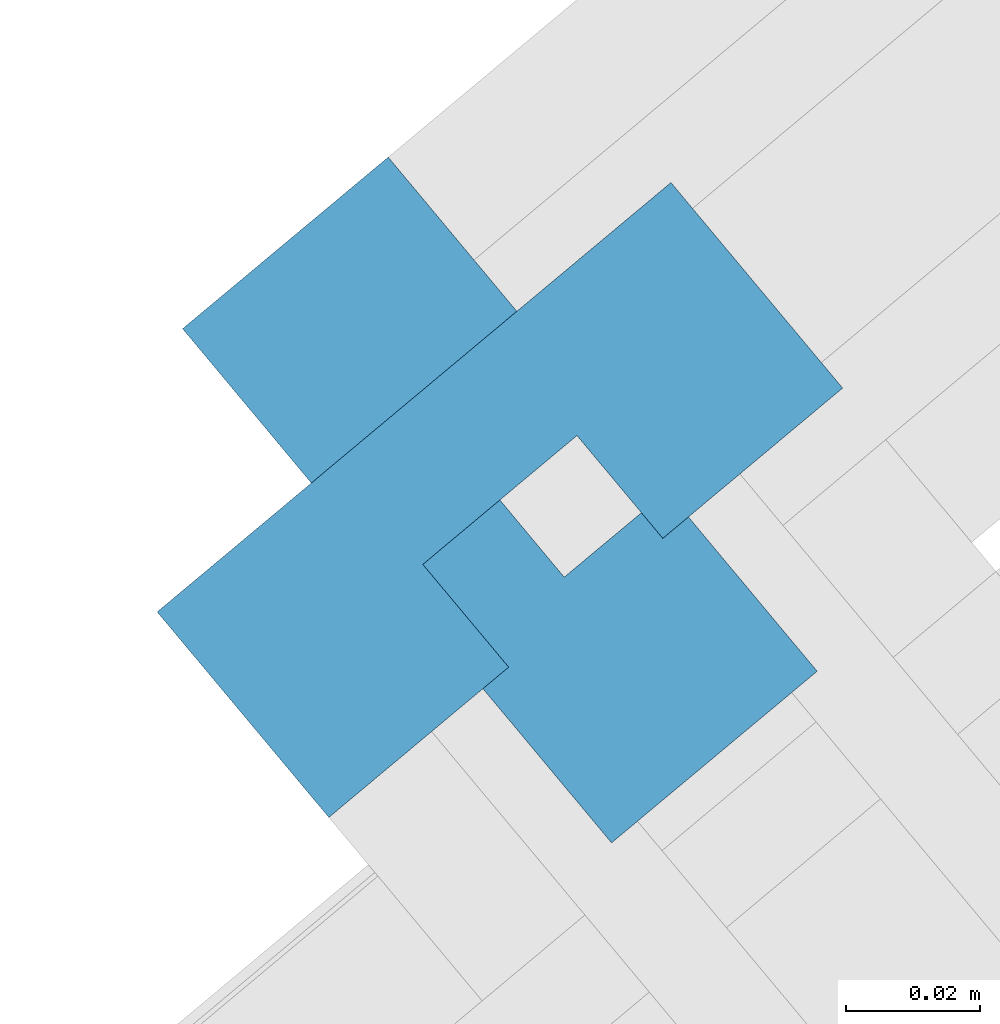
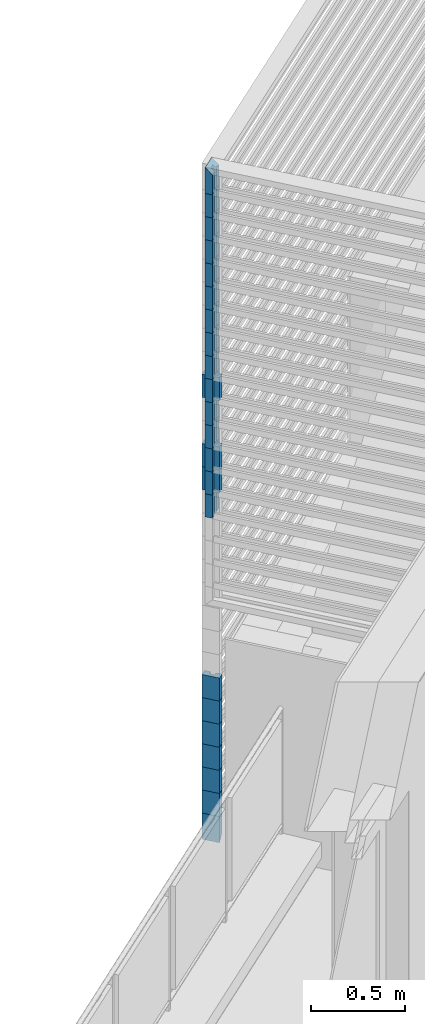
# One storey, part 38 of 47: 25 building element parts, 2 elements without a shape of their own.
"""IFC4 building model written with IfcOpenShell, lengths in metres."""

from ifc_helpers import new_model, entity, si_unit, converted_unit, derived_unit, direction, frame, origin_with_axes, place, context, subcontext, project, spatial, polygons, material, type_object, element, aggregate, save


model = new_model("IFC4")

# Units and contexts
model_context = context("Model", 3, precision=1e-05, world=origin_with_axes(), true_north=direction((0.0, 1.0)))
body_context = subcontext(model_context, "Body", "Model", "MODEL_VIEW")
ifc_project = project(units=[si_unit("LENGTHUNIT", "METRE"), si_unit("AREAUNIT", "SQUARE_METRE"), si_unit("VOLUMEUNIT", "CUBIC_METRE"), converted_unit("PLANEANGLEUNIT", "DEGREE", entity("IfcPlaneAngleMeasure", 0.0174532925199), si_unit("PLANEANGLEUNIT", "RADIAN"), dimensions=[0, 0, 0, 0, 0, 0, 0]), converted_unit("TIMEUNIT", "Year", entity("IfcTimeMeasure", 31556926.0), si_unit("TIMEUNIT", "SECOND"), dimensions=[0, 0, 1, 0, 0, 0, 0]), si_unit("MASSUNIT", "GRAM", prefix="KILO"), si_unit("THERMODYNAMICTEMPERATUREUNIT", "DEGREE_CELSIUS"), si_unit("LUMINOUSINTENSITYUNIT", "LUMEN"), si_unit("ENERGYUNIT", "JOULE", prefix="MEGA"), derived_unit("THERMALCONDUCTANCEUNIT", [(si_unit("POWERUNIT", "WATT"), 1), (si_unit("LENGTHUNIT", "METRE"), -1), (si_unit("THERMODYNAMICTEMPERATUREUNIT", "KELVIN"), -1)]), derived_unit("SPECIFICHEATCAPACITYUNIT", [(si_unit("ENERGYUNIT", "JOULE"), 1), (si_unit("MASSUNIT", "GRAM", prefix="KILO"), -1), (si_unit("THERMODYNAMICTEMPERATUREUNIT", "KELVIN"), -1)]), derived_unit("MASSDENSITYUNIT", [(si_unit("MASSUNIT", "GRAM", prefix="KILO"), 1), (si_unit("VOLUMEUNIT", "CUBIC_METRE"), -1)])], contexts=[model_context])

# Site, building, storey
site_placement = place(None, frame((-0.00153261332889, -0.00661245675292, 0.0), z_axis=(0.0, 0.0, 1.0), x_axis=(1.0, 0.0, 0.0)))
site = spatial("IfcSite", under=ifc_project, at=site_placement, Name="Site", CompositionType="ELEMENT")
building_placement = place(site_placement, origin_with_axes())
building = spatial("IfcBuilding", under=site, at=building_placement, Name="Building", CompositionType="ELEMENT")
storey_placement = place(building_placement, frame((0.0, 0.0, 8.66), z_axis=(0.0, 0.0, 1.0), x_axis=(1.0, 0.0, 0.0)))
storey = spatial("IfcBuildingStorey", under=building, at=storey_placement, Name="DG2", CompositionType="ELEMENT", Elevation=8.66)

# Curtain wall, building element parts
curtain_wall_type = type_object("IfcCurtainWallType", Name="Fassadentyp", PredefinedType="NOTDEFINED")
curtain_wall_1_placement = place(storey_placement, frame((-3.99984616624, 22.0071436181, 1.87), z_axis=(0.0, 0.0, 1.0), x_axis=(1.0, 0.0, 0.0)))
curtain_wall_1 = element("IfcCurtainWall", 1, at=curtain_wall_1_placement, inside=storey, type_object=curtain_wall_type, Name="Fassade-001", PredefinedType="NOTDEFINED")
ifc_material = material(Name="Blech")
building_element_part_1_placement = place(curtain_wall_1_placement, origin_with_axes())
building_element_part_1 = element("IfcBuildingElementPart", 2, at=building_element_part_1_placement, material=ifc_material, Name="Blech", PredefinedType="NOTDEFINED", context=body_context, shape_type="Tessellation", body=[
    polygons([(-0.479092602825, 0.596746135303, 0.700000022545), (-0.466268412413, 0.581398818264, 0.700000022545), (-0.439410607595, 0.603841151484, 0.700000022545), (-0.465058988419, 0.634535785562, 0.700000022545), (-0.541795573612, 0.570414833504, 0.700000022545), (-0.516147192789, 0.539720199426, 0.700000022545), (-0.489289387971, 0.562162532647, 0.700000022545), (-0.502113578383, 0.577509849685, 0.700000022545), (-0.479092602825, 0.596746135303, 0.550000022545), (-0.466268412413, 0.581398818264, 0.550000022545), (-0.439410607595, 0.603841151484, 0.550000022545), (-0.465058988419, 0.634535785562, 0.550000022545), (-0.541795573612, 0.570414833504, 0.550000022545), (-0.516147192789, 0.539720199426, 0.550000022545), (-0.489289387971, 0.562162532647, 0.550000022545), (-0.502113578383, 0.577509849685, 0.550000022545)], [[[1, 2, 3, 4, 5, 6, 7, 8]], [[1, 9, 10, 2]], [[10, 11, 3, 2]], [[11, 12, 4, 3]], [[12, 13, 5, 4]], [[13, 14, 6, 5]], [[7, 6, 14, 15]], [[15, 16, 8, 7]], [[8, 16, 9, 1]], [[9, 16, 15, 14, 13, 12, 11, 10]]], closed=True),
])
building_element_part_2_placement = place(curtain_wall_1_placement, origin_with_axes())
building_element_part_2 = element("IfcBuildingElementPart", 3, at=building_element_part_2_placement, material=ifc_material, Name="Blech", PredefinedType="NOTDEFINED", context=body_context, shape_type="Tessellation", body=[
    polygons([(-0.479092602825, 0.596746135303, 0.850000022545), (-0.466268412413, 0.581398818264, 0.850000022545), (-0.439410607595, 0.603841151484, 0.850000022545), (-0.465058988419, 0.634535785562, 0.850000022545), (-0.541795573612, 0.570414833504, 0.850000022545), (-0.516147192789, 0.539720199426, 0.850000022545), (-0.489289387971, 0.562162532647, 0.850000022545), (-0.502113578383, 0.577509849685, 0.850000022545), (-0.479092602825, 0.596746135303, 0.700000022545), (-0.466268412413, 0.581398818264, 0.700000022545), (-0.439410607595, 0.603841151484, 0.700000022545), (-0.465058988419, 0.634535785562, 0.700000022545), (-0.541795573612, 0.570414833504, 0.700000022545), (-0.516147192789, 0.539720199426, 0.700000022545), (-0.489289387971, 0.562162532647, 0.700000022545), (-0.502113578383, 0.577509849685, 0.700000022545)], [[[1, 2, 3, 4, 5, 6, 7, 8]], [[1, 9, 10, 2]], [[10, 11, 3, 2]], [[11, 12, 4, 3]], [[12, 13, 5, 4]], [[13, 14, 6, 5]], [[7, 6, 14, 15]], [[15, 16, 8, 7]], [[8, 16, 9, 1]], [[9, 16, 15, 14, 13, 12, 11, 10]]], closed=True),
])
building_element_part_3_placement = place(curtain_wall_1_placement, origin_with_axes())
building_element_part_3 = element("IfcBuildingElementPart", 4, at=building_element_part_3_placement, material=ifc_material, Name="Blech", PredefinedType="NOTDEFINED", context=body_context, shape_type="Tessellation", body=[
    polygons([(-0.479092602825, 0.596746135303, 1.00000002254), (-0.466268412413, 0.581398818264, 1.00000002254), (-0.439410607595, 0.603841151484, 1.00000002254), (-0.465058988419, 0.634535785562, 1.00000002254), (-0.541795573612, 0.570414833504, 1.00000002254), (-0.516147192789, 0.539720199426, 1.00000002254), (-0.489289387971, 0.562162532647, 1.00000002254), (-0.502113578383, 0.577509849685, 1.00000002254), (-0.479092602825, 0.596746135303, 0.850000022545), (-0.466268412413, 0.581398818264, 0.850000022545), (-0.439410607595, 0.603841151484, 0.850000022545), (-0.465058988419, 0.634535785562, 0.850000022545), (-0.541795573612, 0.570414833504, 0.850000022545), (-0.516147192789, 0.539720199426, 0.850000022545), (-0.489289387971, 0.562162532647, 0.850000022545), (-0.502113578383, 0.577509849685, 0.850000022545)], [[[1, 2, 3, 4, 5, 6, 7, 8]], [[1, 9, 10, 2]], [[10, 11, 3, 2]], [[11, 12, 4, 3]], [[12, 13, 5, 4]], [[13, 14, 6, 5]], [[7, 6, 14, 15]], [[15, 16, 8, 7]], [[8, 16, 9, 1]], [[9, 16, 15, 14, 13, 12, 11, 10]]], closed=True),
])
building_element_part_4_placement = place(curtain_wall_1_placement, origin_with_axes())
building_element_part_4 = element("IfcBuildingElementPart", 5, at=building_element_part_4_placement, material=ifc_material, Name="Blech", PredefinedType="NOTDEFINED", context=body_context, shape_type="Tessellation", body=[
    polygons([(-0.479092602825, 0.596746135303, 1.15000002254), (-0.466268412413, 0.581398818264, 1.15000002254), (-0.439410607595, 0.603841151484, 1.15000002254), (-0.465058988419, 0.634535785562, 1.15000002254), (-0.541795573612, 0.570414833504, 1.15000002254), (-0.516147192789, 0.539720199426, 1.15000002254), (-0.489289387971, 0.562162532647, 1.15000002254), (-0.502113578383, 0.577509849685, 1.15000002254), (-0.479092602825, 0.596746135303, 1.00000002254), (-0.466268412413, 0.581398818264, 1.00000002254), (-0.439410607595, 0.603841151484, 1.00000002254), (-0.465058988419, 0.634535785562, 1.00000002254), (-0.541795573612, 0.570414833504, 1.00000002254), (-0.516147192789, 0.539720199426, 1.00000002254), (-0.489289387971, 0.562162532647, 1.00000002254), (-0.502113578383, 0.577509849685, 1.00000002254)], [[[1, 2, 3, 4, 5, 6, 7, 8]], [[1, 9, 10, 2]], [[10, 11, 3, 2]], [[11, 12, 4, 3]], [[12, 13, 5, 4]], [[13, 14, 6, 5]], [[7, 6, 14, 15]], [[15, 16, 8, 7]], [[8, 16, 9, 1]], [[9, 16, 15, 14, 13, 12, 11, 10]]], closed=True),
])
building_element_part_5_placement = place(curtain_wall_1_placement, origin_with_axes())
building_element_part_5 = element("IfcBuildingElementPart", 6, at=building_element_part_5_placement, material=ifc_material, Name="Blech", PredefinedType="NOTDEFINED", context=body_context, shape_type="Tessellation", body=[
    polygons([(-0.479092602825, 0.596746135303, 1.30000002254), (-0.466268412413, 0.581398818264, 1.30000002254), (-0.439410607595, 0.603841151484, 1.30000002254), (-0.465058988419, 0.634535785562, 1.30000002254), (-0.541795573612, 0.570414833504, 1.30000002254), (-0.516147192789, 0.539720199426, 1.30000002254), (-0.489289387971, 0.562162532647, 1.30000002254), (-0.502113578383, 0.577509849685, 1.30000002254), (-0.479092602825, 0.596746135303, 1.15000002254), (-0.466268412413, 0.581398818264, 1.15000002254), (-0.439410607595, 0.603841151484, 1.15000002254), (-0.465058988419, 0.634535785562, 1.15000002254), (-0.541795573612, 0.570414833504, 1.15000002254), (-0.516147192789, 0.539720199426, 1.15000002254), (-0.489289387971, 0.562162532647, 1.15000002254), (-0.502113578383, 0.577509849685, 1.15000002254)], [[[1, 2, 3, 4, 5, 6, 7, 8]], [[1, 9, 10, 2]], [[10, 11, 3, 2]], [[11, 12, 4, 3]], [[12, 13, 5, 4]], [[13, 14, 6, 5]], [[7, 6, 14, 15]], [[15, 16, 8, 7]], [[8, 16, 9, 1]], [[9, 16, 15, 14, 13, 12, 11, 10]]], closed=True),
])
building_element_part_6_placement = place(curtain_wall_1_placement, origin_with_axes())
building_element_part_6 = element("IfcBuildingElementPart", 7, at=building_element_part_6_placement, material=ifc_material, Name="Blech", PredefinedType="NOTDEFINED", context=body_context, shape_type="Tessellation", body=[
    polygons([(-0.479092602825, 0.596746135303, 1.45000002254), (-0.466268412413, 0.581398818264, 1.45000002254), (-0.439410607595, 0.603841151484, 1.45000002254), (-0.465058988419, 0.634535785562, 1.45000002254), (-0.541795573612, 0.570414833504, 1.45000002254), (-0.516147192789, 0.539720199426, 1.45000002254), (-0.489289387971, 0.562162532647, 1.45000002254), (-0.502113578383, 0.577509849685, 1.45000002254), (-0.479092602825, 0.596746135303, 1.30000002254), (-0.466268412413, 0.581398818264, 1.30000002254), (-0.439410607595, 0.603841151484, 1.30000002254), (-0.465058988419, 0.634535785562, 1.30000002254), (-0.541795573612, 0.570414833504, 1.30000002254), (-0.516147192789, 0.539720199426, 1.30000002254), (-0.489289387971, 0.562162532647, 1.30000002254), (-0.502113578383, 0.577509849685, 1.30000002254)], [[[1, 2, 3, 4, 5, 6, 7, 8]], [[1, 9, 10, 2]], [[10, 11, 3, 2]], [[11, 12, 4, 3]], [[12, 13, 5, 4]], [[13, 14, 6, 5]], [[7, 6, 14, 15]], [[15, 16, 8, 7]], [[8, 16, 9, 1]], [[9, 16, 15, 14, 13, 12, 11, 10]]], closed=True),
])
building_element_part_7_placement = place(curtain_wall_1_placement, origin_with_axes())
building_element_part_7 = element("IfcBuildingElementPart", 8, at=building_element_part_7_placement, material=ifc_material, Name="Blech", PredefinedType="NOTDEFINED", context=body_context, shape_type="Tessellation", body=[
    polygons([(-0.479092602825, 0.596746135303, 1.60000002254), (-0.466268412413, 0.581398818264, 1.60000002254), (-0.439410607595, 0.603841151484, 1.60000002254), (-0.465058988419, 0.634535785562, 1.60000002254), (-0.541795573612, 0.570414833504, 1.60000002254), (-0.516147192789, 0.539720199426, 1.60000002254), (-0.489289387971, 0.562162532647, 1.60000002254), (-0.502113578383, 0.577509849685, 1.60000002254), (-0.479092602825, 0.596746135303, 1.45000002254), (-0.466268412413, 0.581398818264, 1.45000002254), (-0.439410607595, 0.603841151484, 1.45000002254), (-0.465058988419, 0.634535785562, 1.45000002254), (-0.541795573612, 0.570414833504, 1.45000002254), (-0.516147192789, 0.539720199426, 1.45000002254), (-0.489289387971, 0.562162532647, 1.45000002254), (-0.502113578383, 0.577509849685, 1.45000002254)], [[[1, 2, 3, 4, 5, 6, 7, 8]], [[1, 9, 10, 2]], [[10, 11, 3, 2]], [[11, 12, 4, 3]], [[12, 13, 5, 4]], [[13, 14, 6, 5]], [[7, 6, 14, 15]], [[15, 16, 8, 7]], [[8, 16, 9, 1]], [[9, 16, 15, 14, 13, 12, 11, 10]]], closed=True),
])
building_element_part_8_placement = place(curtain_wall_1_placement, origin_with_axes())
building_element_part_8 = element("IfcBuildingElementPart", 9, at=building_element_part_8_placement, material=ifc_material, Name="Blech", PredefinedType="NOTDEFINED", context=body_context, shape_type="Tessellation", body=[
    polygons([(-0.479092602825, 0.596746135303, 1.75000002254), (-0.466268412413, 0.581398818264, 1.75000002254), (-0.439410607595, 0.603841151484, 1.75000002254), (-0.465058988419, 0.634535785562, 1.75000002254), (-0.541795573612, 0.570414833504, 1.75000002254), (-0.516147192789, 0.539720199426, 1.75000002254), (-0.489289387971, 0.562162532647, 1.75000002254), (-0.502113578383, 0.577509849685, 1.75000002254), (-0.479092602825, 0.596746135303, 1.60000002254), (-0.466268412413, 0.581398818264, 1.60000002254), (-0.439410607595, 0.603841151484, 1.60000002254), (-0.465058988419, 0.634535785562, 1.60000002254), (-0.541795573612, 0.570414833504, 1.60000002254), (-0.516147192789, 0.539720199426, 1.60000002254), (-0.489289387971, 0.562162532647, 1.60000002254), (-0.502113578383, 0.577509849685, 1.60000002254)], [[[1, 2, 3, 4, 5, 6, 7, 8]], [[1, 9, 10, 2]], [[10, 11, 3, 2]], [[11, 12, 4, 3]], [[12, 13, 5, 4]], [[13, 14, 6, 5]], [[7, 6, 14, 15]], [[15, 16, 8, 7]], [[8, 16, 9, 1]], [[9, 16, 15, 14, 13, 12, 11, 10]]], closed=True),
])
building_element_part_9_placement = place(curtain_wall_1_placement, origin_with_axes())
building_element_part_9 = element("IfcBuildingElementPart", 10, at=building_element_part_9_placement, material=ifc_material, Name="Blech", PredefinedType="NOTDEFINED", context=body_context, shape_type="Tessellation", body=[
    polygons([(-0.479092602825, 0.596746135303, 1.90000002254), (-0.466268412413, 0.581398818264, 1.90000002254), (-0.439410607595, 0.603841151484, 1.90000002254), (-0.465058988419, 0.634535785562, 1.90000002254), (-0.541795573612, 0.570414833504, 1.90000002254), (-0.516147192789, 0.539720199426, 1.90000002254), (-0.489289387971, 0.562162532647, 1.90000002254), (-0.502113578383, 0.577509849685, 1.90000002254), (-0.479092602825, 0.596746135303, 1.75000002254), (-0.466268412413, 0.581398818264, 1.75000002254), (-0.439410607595, 0.603841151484, 1.75000002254), (-0.465058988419, 0.634535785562, 1.75000002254), (-0.541795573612, 0.570414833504, 1.75000002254), (-0.516147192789, 0.539720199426, 1.75000002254), (-0.489289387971, 0.562162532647, 1.75000002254), (-0.502113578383, 0.577509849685, 1.75000002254)], [[[1, 2, 3, 4, 5, 6, 7, 8]], [[1, 9, 10, 2]], [[10, 11, 3, 2]], [[11, 12, 4, 3]], [[12, 13, 5, 4]], [[13, 14, 6, 5]], [[7, 6, 14, 15]], [[15, 16, 8, 7]], [[8, 16, 9, 1]], [[9, 16, 15, 14, 13, 12, 11, 10]]], closed=True),
])
building_element_part_10_placement = place(curtain_wall_1_placement, origin_with_axes())
building_element_part_10 = element("IfcBuildingElementPart", 11, at=building_element_part_10_placement, material=ifc_material, Name="Blech", PredefinedType="NOTDEFINED", context=body_context, shape_type="Tessellation", body=[
    polygons([(-0.479092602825, 0.596746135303, 2.05000002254), (-0.466268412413, 0.581398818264, 2.05000002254), (-0.439410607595, 0.603841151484, 2.05000002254), (-0.465058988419, 0.634535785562, 2.05000002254), (-0.541795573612, 0.570414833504, 2.05000002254), (-0.516147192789, 0.539720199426, 2.05000002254), (-0.489289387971, 0.562162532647, 2.05000002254), (-0.502113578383, 0.577509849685, 2.05000002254), (-0.479092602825, 0.596746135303, 1.90000002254), (-0.466268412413, 0.581398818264, 1.90000002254), (-0.439410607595, 0.603841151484, 1.90000002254), (-0.465058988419, 0.634535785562, 1.90000002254), (-0.541795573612, 0.570414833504, 1.90000002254), (-0.516147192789, 0.539720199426, 1.90000002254), (-0.489289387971, 0.562162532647, 1.90000002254), (-0.502113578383, 0.577509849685, 1.90000002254)], [[[1, 2, 3, 4, 5, 6, 7, 8]], [[1, 9, 10, 2]], [[10, 11, 3, 2]], [[11, 12, 4, 3]], [[12, 13, 5, 4]], [[13, 14, 6, 5]], [[7, 6, 14, 15]], [[15, 16, 8, 7]], [[8, 16, 9, 1]], [[9, 16, 15, 14, 13, 12, 11, 10]]], closed=True),
])
building_element_part_11_placement = place(curtain_wall_1_placement, origin_with_axes())
building_element_part_11 = element("IfcBuildingElementPart", 12, at=building_element_part_11_placement, material=ifc_material, Name="Blech", PredefinedType="NOTDEFINED", context=body_context, shape_type="Tessellation", body=[
    polygons([(-0.479092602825, 0.596746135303, 2.20000002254), (-0.466268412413, 0.581398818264, 2.20000002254), (-0.439410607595, 0.603841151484, 2.20000002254), (-0.465058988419, 0.634535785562, 2.20000002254), (-0.541795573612, 0.570414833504, 2.20000002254), (-0.516147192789, 0.539720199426, 2.20000002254), (-0.489289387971, 0.562162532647, 2.20000002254), (-0.502113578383, 0.577509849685, 2.20000002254), (-0.479092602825, 0.596746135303, 2.05000002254), (-0.466268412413, 0.581398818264, 2.05000002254), (-0.439410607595, 0.603841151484, 2.05000002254), (-0.465058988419, 0.634535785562, 2.05000002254), (-0.541795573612, 0.570414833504, 2.05000002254), (-0.516147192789, 0.539720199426, 2.05000002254), (-0.489289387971, 0.562162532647, 2.05000002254), (-0.502113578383, 0.577509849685, 2.05000002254)], [[[1, 2, 3, 4, 5, 6, 7, 8]], [[1, 9, 10, 2]], [[10, 11, 3, 2]], [[11, 12, 4, 3]], [[12, 13, 5, 4]], [[13, 14, 6, 5]], [[7, 6, 14, 15]], [[15, 16, 8, 7]], [[8, 16, 9, 1]], [[9, 16, 15, 14, 13, 12, 11, 10]]], closed=True),
])
building_element_part_12_placement = place(curtain_wall_1_placement, origin_with_axes())
building_element_part_12 = element("IfcBuildingElementPart", 13, at=building_element_part_12_placement, material=ifc_material, Name="Blech", PredefinedType="NOTDEFINED", context=body_context, shape_type="Tessellation", body=[
    polygons([(-0.479092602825, 0.596746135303, 2.35000002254), (-0.466268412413, 0.581398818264, 2.35000002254), (-0.439410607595, 0.603841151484, 2.35000002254), (-0.465058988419, 0.634535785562, 2.35000002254), (-0.541795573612, 0.570414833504, 2.35000002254), (-0.516147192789, 0.539720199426, 2.35000002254), (-0.489289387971, 0.562162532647, 2.35000002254), (-0.502113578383, 0.577509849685, 2.35000002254), (-0.479092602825, 0.596746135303, 2.20000002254), (-0.466268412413, 0.581398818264, 2.20000002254), (-0.439410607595, 0.603841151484, 2.20000002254), (-0.465058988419, 0.634535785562, 2.20000002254), (-0.541795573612, 0.570414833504, 2.20000002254), (-0.516147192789, 0.539720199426, 2.20000002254), (-0.489289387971, 0.562162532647, 2.20000002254), (-0.502113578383, 0.577509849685, 2.20000002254)], [[[1, 2, 3, 4, 5, 6, 7, 8]], [[1, 9, 10, 2]], [[10, 11, 3, 2]], [[11, 12, 4, 3]], [[12, 13, 5, 4]], [[13, 14, 6, 5]], [[7, 6, 14, 15]], [[15, 16, 8, 7]], [[8, 16, 9, 1]], [[9, 16, 15, 14, 13, 12, 11, 10]]], closed=True),
])
building_element_part_13_placement = place(curtain_wall_1_placement, origin_with_axes())
building_element_part_13 = element("IfcBuildingElementPart", 14, at=building_element_part_13_placement, material=ifc_material, Name="Blech", PredefinedType="NOTDEFINED", context=body_context, shape_type="Tessellation", body=[
    polygons([(-0.479092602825, 0.596746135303, 2.50000002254), (-0.466268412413, 0.581398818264, 2.50000002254), (-0.439410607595, 0.603841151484, 2.50000002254), (-0.465058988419, 0.634535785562, 2.50000002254), (-0.541795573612, 0.570414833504, 2.50000002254), (-0.516147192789, 0.539720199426, 2.50000002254), (-0.489289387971, 0.562162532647, 2.50000002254), (-0.502113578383, 0.577509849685, 2.50000002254), (-0.479092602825, 0.596746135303, 2.35000002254), (-0.466268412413, 0.581398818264, 2.35000002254), (-0.439410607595, 0.603841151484, 2.35000002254), (-0.465058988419, 0.634535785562, 2.35000002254), (-0.541795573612, 0.570414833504, 2.35000002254), (-0.516147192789, 0.539720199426, 2.35000002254), (-0.489289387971, 0.562162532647, 2.35000002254), (-0.502113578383, 0.577509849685, 2.35000002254)], [[[1, 2, 3, 4, 5, 6, 7, 8]], [[1, 9, 10, 2]], [[10, 11, 3, 2]], [[11, 12, 4, 3]], [[12, 13, 5, 4]], [[13, 14, 6, 5]], [[7, 6, 14, 15]], [[15, 16, 8, 7]], [[8, 16, 9, 1]], [[9, 16, 15, 14, 13, 12, 11, 10]]], closed=True),
])
building_element_part_14_placement = place(curtain_wall_1_placement, origin_with_axes())
building_element_part_14 = element("IfcBuildingElementPart", 15, at=building_element_part_14_placement, material=ifc_material, Name="Blech", PredefinedType="NOTDEFINED", context=body_context, shape_type="Tessellation", body=[
    polygons([(-0.479092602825, 0.596746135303, 2.65000002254), (-0.466268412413, 0.581398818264, 2.65000002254), (-0.439410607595, 0.603841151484, 2.65000002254), (-0.465058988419, 0.634535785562, 2.65000002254), (-0.541795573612, 0.570414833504, 2.65000002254), (-0.516147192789, 0.539720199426, 2.65000002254), (-0.489289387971, 0.562162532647, 2.65000002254), (-0.502113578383, 0.577509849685, 2.65000002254), (-0.479092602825, 0.596746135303, 2.50000002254), (-0.466268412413, 0.581398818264, 2.50000002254), (-0.439410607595, 0.603841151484, 2.50000002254), (-0.465058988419, 0.634535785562, 2.50000002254), (-0.541795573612, 0.570414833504, 2.50000002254), (-0.516147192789, 0.539720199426, 2.50000002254), (-0.489289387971, 0.562162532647, 2.50000002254), (-0.502113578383, 0.577509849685, 2.50000002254)], [[[1, 2, 3, 4, 5, 6, 7, 8]], [[1, 9, 10, 2]], [[10, 11, 3, 2]], [[11, 12, 4, 3]], [[12, 13, 5, 4]], [[13, 14, 6, 5]], [[7, 6, 14, 15]], [[15, 16, 8, 7]], [[8, 16, 9, 1]], [[9, 16, 15, 14, 13, 12, 11, 10]]], closed=True),
])
building_element_part_15_placement = place(curtain_wall_1_placement, origin_with_axes())
building_element_part_15 = element("IfcBuildingElementPart", 16, at=building_element_part_15_placement, material=ifc_material, Name="Blech", PredefinedType="NOTDEFINED", context=body_context, shape_type="Tessellation", body=[
    polygons([(-0.479092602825, 0.596746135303, 2.80000002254), (-0.466268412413, 0.581398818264, 2.78000002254), (-0.439410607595, 0.603841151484, 2.78000002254), (-0.465058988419, 0.634535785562, 2.82000002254), (-0.541795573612, 0.570414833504, 2.82000002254), (-0.516147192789, 0.539720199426, 2.78000002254), (-0.489289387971, 0.562162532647, 2.78000002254), (-0.502113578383, 0.577509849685, 2.80000002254), (-0.479092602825, 0.596746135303, 2.65000002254), (-0.466268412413, 0.581398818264, 2.65000002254), (-0.439410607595, 0.603841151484, 2.65000002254), (-0.465058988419, 0.634535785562, 2.65000002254), (-0.541795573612, 0.570414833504, 2.65000002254), (-0.516147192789, 0.539720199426, 2.65000002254), (-0.489289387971, 0.562162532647, 2.65000002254), (-0.502113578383, 0.577509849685, 2.65000002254)], [[[1, 2, 3, 4, 5, 6, 7, 8]], [[1, 9, 10, 2]], [[10, 11, 3, 2]], [[11, 12, 4, 3]], [[12, 13, 5, 4]], [[13, 14, 6, 5]], [[7, 6, 14, 15]], [[15, 16, 8, 7]], [[8, 16, 9, 1]], [[9, 16, 15, 14, 13, 12, 11, 10]]], closed=True),
])
aggregate(curtain_wall_1, [building_element_part_1, building_element_part_2, building_element_part_3, building_element_part_4, building_element_part_5, building_element_part_6, building_element_part_7, building_element_part_8, building_element_part_9, building_element_part_10, building_element_part_11, building_element_part_12, building_element_part_13, building_element_part_14, building_element_part_15])

curtain_wall_2_placement = place(storey_placement, frame((-2.95253507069, 23.8775371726, 0.32), z_axis=(0.0, 0.0, 1.0), x_axis=(1.0, 0.0, 0.0)))
curtain_wall_2 = element("IfcCurtainWall", 17, at=curtain_wall_2_placement, inside=storey, type_object=curtain_wall_type, Name="Fassade-001", PredefinedType="NOTDEFINED")
building_element_part_16_placement = place(curtain_wall_2_placement, origin_with_axes())
building_element_part_16 = element("IfcBuildingElementPart", 18, at=building_element_part_16_placement, material=ifc_material, Name="Blech", PredefinedType="NOTDEFINED", context=body_context, shape_type="Tessellation", body=[
    polygons([(-1.52830488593, -1.29478343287, 0.15), (-1.54752517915, -1.27174910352, 0.15), (-1.53216895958, -1.25893557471, 0.15), (-1.554592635, -1.23206219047, 0.15), (-1.58530507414, -1.25768924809, 0.15), (-1.52123743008, -1.33447034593, 0.15), (-1.49052499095, -1.3088432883, 0.15), (-1.51294866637, -1.28196990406, 0.15), (-1.52830488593, -1.29478343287, 0.0), (-1.54752517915, -1.27174910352, 0.0), (-1.53216895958, -1.25893557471, 0.02), (-1.554592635, -1.23206219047, 0.02), (-1.58530507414, -1.25768924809, -0.02), (-1.52123743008, -1.33447034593, -0.02), (-1.49052499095, -1.3088432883, 0.02), (-1.51294866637, -1.28196990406, 0.02)], [[[1, 2, 3, 4, 5, 6, 7, 8]], [[2, 1, 9, 10]], [[11, 3, 2, 10]], [[3, 11, 12, 4]], [[5, 4, 12, 13]], [[6, 5, 13, 14]], [[7, 6, 14, 15]], [[16, 8, 7, 15]], [[1, 8, 16, 9]], [[9, 16, 15, 14, 13, 12, 11, 10]]], closed=True),
])
building_element_part_17_placement = place(curtain_wall_2_placement, origin_with_axes())
building_element_part_17 = element("IfcBuildingElementPart", 19, at=building_element_part_17_placement, material=ifc_material, Name="Blech", PredefinedType="NOTDEFINED", context=body_context, shape_type="Tessellation", body=[
    polygons([(-1.52830488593, -1.29478343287, 0.3), (-1.54752517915, -1.27174910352, 0.3), (-1.53216895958, -1.25893557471, 0.3), (-1.554592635, -1.23206219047, 0.3), (-1.58530507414, -1.25768924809, 0.3), (-1.52123743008, -1.33447034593, 0.3), (-1.49052499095, -1.3088432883, 0.3), (-1.51294866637, -1.28196990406, 0.3), (-1.52830488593, -1.29478343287, 0.15), (-1.54752517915, -1.27174910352, 0.15), (-1.53216895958, -1.25893557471, 0.15), (-1.554592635, -1.23206219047, 0.15), (-1.58530507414, -1.25768924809, 0.15), (-1.52123743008, -1.33447034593, 0.15), (-1.49052499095, -1.3088432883, 0.15), (-1.51294866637, -1.28196990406, 0.15)], [[[1, 2, 3, 4, 5, 6, 7, 8]], [[2, 1, 9, 10]], [[11, 3, 2, 10]], [[3, 11, 12, 4]], [[13, 5, 4, 12]], [[14, 6, 5, 13]], [[15, 7, 6, 14]], [[16, 8, 7, 15]], [[1, 8, 16, 9]], [[9, 16, 15, 14, 13, 12, 11, 10]]], closed=True),
])
building_element_part_18_placement = place(curtain_wall_2_placement, origin_with_axes())
building_element_part_18 = element("IfcBuildingElementPart", 20, at=building_element_part_18_placement, material=ifc_material, Name="Blech", PredefinedType="NOTDEFINED", context=body_context, shape_type="Tessellation", body=[
    polygons([(-1.52830488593, -1.29478343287, 2.55), (-1.54752517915, -1.27174910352, 2.55), (-1.53216895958, -1.25893557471, 2.55), (-1.554592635, -1.23206219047, 2.55), (-1.58530507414, -1.25768924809, 2.55), (-1.52123743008, -1.33447034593, 2.55), (-1.49052499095, -1.3088432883, 2.55), (-1.51294866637, -1.28196990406, 2.55), (-1.52830488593, -1.29478343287, 2.4), (-1.54752517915, -1.27174910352, 2.4), (-1.53216895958, -1.25893557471, 2.4), (-1.554592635, -1.23206219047, 2.4), (-1.58530507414, -1.25768924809, 2.4), (-1.52123743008, -1.33447034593, 2.4), (-1.49052499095, -1.3088432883, 2.4), (-1.51294866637, -1.28196990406, 2.4)], [[[1, 2, 3, 4, 5, 6, 7, 8]], [[2, 1, 9, 10]], [[11, 3, 2, 10]], [[3, 11, 12, 4]], [[13, 5, 4, 12]], [[14, 6, 5, 13]], [[15, 7, 6, 14]], [[16, 8, 7, 15]], [[1, 8, 16, 9]], [[9, 16, 15, 14, 13, 12, 11, 10]]], closed=True),
])
building_element_part_19_placement = place(curtain_wall_2_placement, origin_with_axes())
building_element_part_19 = element("IfcBuildingElementPart", 21, at=building_element_part_19_placement, material=ifc_material, Name="Blech", PredefinedType="NOTDEFINED", context=body_context, shape_type="Tessellation", body=[
    polygons([(-1.52830488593, -1.29478343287, 0.45), (-1.54752517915, -1.27174910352, 0.45), (-1.53216895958, -1.25893557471, 0.45), (-1.554592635, -1.23206219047, 0.45), (-1.58530507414, -1.25768924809, 0.45), (-1.52123743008, -1.33447034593, 0.45), (-1.49052499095, -1.3088432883, 0.45), (-1.51294866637, -1.28196990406, 0.45), (-1.52830488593, -1.29478343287, 0.3), (-1.54752517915, -1.27174910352, 0.3), (-1.53216895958, -1.25893557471, 0.3), (-1.554592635, -1.23206219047, 0.3), (-1.58530507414, -1.25768924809, 0.3), (-1.52123743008, -1.33447034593, 0.3), (-1.49052499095, -1.3088432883, 0.3), (-1.51294866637, -1.28196990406, 0.3)], [[[1, 2, 3, 4, 5, 6, 7, 8]], [[2, 1, 9, 10]], [[11, 3, 2, 10]], [[3, 11, 12, 4]], [[13, 5, 4, 12]], [[14, 6, 5, 13]], [[15, 7, 6, 14]], [[16, 8, 7, 15]], [[1, 8, 16, 9]], [[9, 16, 15, 14, 13, 12, 11, 10]]], closed=True),
])
building_element_part_20_placement = place(curtain_wall_2_placement, origin_with_axes())
building_element_part_20 = element("IfcBuildingElementPart", 22, at=building_element_part_20_placement, material=ifc_material, Name="Blech", PredefinedType="NOTDEFINED", context=body_context, shape_type="Tessellation", body=[
    polygons([(-1.52830488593, -1.29478343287, 0.6), (-1.54752517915, -1.27174910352, 0.6), (-1.53216895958, -1.25893557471, 0.6), (-1.554592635, -1.23206219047, 0.6), (-1.58530507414, -1.25768924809, 0.6), (-1.52123743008, -1.33447034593, 0.6), (-1.49052499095, -1.3088432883, 0.6), (-1.51294866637, -1.28196990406, 0.6), (-1.52830488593, -1.29478343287, 0.45), (-1.54752517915, -1.27174910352, 0.45), (-1.53216895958, -1.25893557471, 0.45), (-1.554592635, -1.23206219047, 0.45), (-1.58530507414, -1.25768924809, 0.45), (-1.52123743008, -1.33447034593, 0.45), (-1.49052499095, -1.3088432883, 0.45), (-1.51294866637, -1.28196990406, 0.45)], [[[1, 2, 3, 4, 5, 6, 7, 8]], [[2, 1, 9, 10]], [[11, 3, 2, 10]], [[3, 11, 12, 4]], [[13, 5, 4, 12]], [[14, 6, 5, 13]], [[15, 7, 6, 14]], [[16, 8, 7, 15]], [[1, 8, 16, 9]], [[9, 16, 15, 14, 13, 12, 11, 10]]], closed=True),
])
building_element_part_21_placement = place(curtain_wall_2_placement, origin_with_axes())
building_element_part_21 = element("IfcBuildingElementPart", 23, at=building_element_part_21_placement, material=ifc_material, Name="Blech", PredefinedType="NOTDEFINED", context=body_context, shape_type="Tessellation", body=[
    polygons([(-1.52830488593, -1.29478343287, 3.0), (-1.54752517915, -1.27174910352, 3.0), (-1.53216895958, -1.25893557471, 3.0), (-1.554592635, -1.23206219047, 3.0), (-1.58530507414, -1.25768924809, 3.0), (-1.52123743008, -1.33447034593, 3.0), (-1.49052499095, -1.3088432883, 3.0), (-1.51294866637, -1.28196990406, 3.0), (-1.52830488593, -1.29478343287, 2.85), (-1.54752517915, -1.27174910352, 2.85), (-1.53216895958, -1.25893557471, 2.85), (-1.554592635, -1.23206219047, 2.85), (-1.58530507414, -1.25768924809, 2.85), (-1.52123743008, -1.33447034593, 2.85), (-1.49052499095, -1.3088432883, 2.85), (-1.51294866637, -1.28196990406, 2.85)], [[[1, 2, 3, 4, 5, 6, 7, 8]], [[2, 1, 9, 10]], [[11, 3, 2, 10]], [[3, 11, 12, 4]], [[13, 5, 4, 12]], [[14, 6, 5, 13]], [[15, 7, 6, 14]], [[16, 8, 7, 15]], [[1, 8, 16, 9]], [[9, 16, 15, 14, 13, 12, 11, 10]]], closed=True),
])
building_element_part_22_placement = place(curtain_wall_2_placement, origin_with_axes())
building_element_part_22 = element("IfcBuildingElementPart", 24, at=building_element_part_22_placement, material=ifc_material, Name="Blech", PredefinedType="NOTDEFINED", context=body_context, shape_type="Tessellation", body=[
    polygons([(-1.52830488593, -1.29478343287, 0.75), (-1.54752517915, -1.27174910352, 0.75), (-1.53216895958, -1.25893557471, 0.75), (-1.554592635, -1.23206219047, 0.75), (-1.58530507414, -1.25768924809, 0.75), (-1.52123743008, -1.33447034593, 0.75), (-1.49052499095, -1.3088432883, 0.75), (-1.51294866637, -1.28196990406, 0.75), (-1.52830488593, -1.29478343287, 0.6), (-1.54752517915, -1.27174910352, 0.6), (-1.53216895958, -1.25893557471, 0.6), (-1.554592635, -1.23206219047, 0.6), (-1.58530507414, -1.25768924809, 0.6), (-1.52123743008, -1.33447034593, 0.6), (-1.49052499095, -1.3088432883, 0.6), (-1.51294866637, -1.28196990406, 0.6)], [[[1, 2, 3, 4, 5, 6, 7, 8]], [[2, 1, 9, 10]], [[11, 3, 2, 10]], [[3, 11, 12, 4]], [[13, 5, 4, 12]], [[14, 6, 5, 13]], [[15, 7, 6, 14]], [[16, 8, 7, 15]], [[1, 8, 16, 9]], [[9, 16, 15, 14, 13, 12, 11, 10]]], closed=True),
])
building_element_part_23_placement = place(curtain_wall_2_placement, origin_with_axes())
building_element_part_23 = element("IfcBuildingElementPart", 25, at=building_element_part_23_placement, material=ifc_material, Name="Blech", PredefinedType="NOTDEFINED", context=body_context, shape_type="Tessellation", body=[
    polygons([(-1.52830488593, -1.29478343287, 0.9), (-1.54752517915, -1.27174910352, 0.9), (-1.53216895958, -1.25893557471, 0.9), (-1.554592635, -1.23206219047, 0.9), (-1.58530507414, -1.25768924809, 0.9), (-1.52123743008, -1.33447034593, 0.9), (-1.49052499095, -1.3088432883, 0.9), (-1.51294866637, -1.28196990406, 0.9), (-1.52830488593, -1.29478343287, 0.75), (-1.54752517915, -1.27174910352, 0.75), (-1.53216895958, -1.25893557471, 0.75), (-1.554592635, -1.23206219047, 0.75), (-1.58530507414, -1.25768924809, 0.75), (-1.52123743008, -1.33447034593, 0.75), (-1.49052499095, -1.3088432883, 0.75), (-1.51294866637, -1.28196990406, 0.75)], [[[1, 2, 3, 4, 5, 6, 7, 8]], [[2, 1, 9, 10]], [[11, 3, 2, 10]], [[3, 11, 12, 4]], [[13, 5, 4, 12]], [[14, 6, 5, 13]], [[15, 7, 6, 14]], [[16, 8, 7, 15]], [[1, 8, 16, 9]], [[9, 16, 15, 14, 13, 12, 11, 10]]], closed=True),
])
building_element_part_24_placement = place(curtain_wall_2_placement, origin_with_axes())
building_element_part_24 = element("IfcBuildingElementPart", 26, at=building_element_part_24_placement, material=ifc_material, Name="Blech", PredefinedType="NOTDEFINED", context=body_context, shape_type="Tessellation", body=[
    polygons([(-1.52830488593, -1.29478343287, 1.05), (-1.54752517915, -1.27174910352, 1.05), (-1.53216895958, -1.25893557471, 1.05), (-1.554592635, -1.23206219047, 1.05), (-1.58530507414, -1.25768924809, 1.05), (-1.52123743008, -1.33447034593, 1.05), (-1.49052499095, -1.3088432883, 1.05), (-1.51294866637, -1.28196990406, 1.05), (-1.52830488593, -1.29478343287, 0.9), (-1.54752517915, -1.27174910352, 0.9), (-1.53216895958, -1.25893557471, 0.9), (-1.554592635, -1.23206219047, 0.9), (-1.58530507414, -1.25768924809, 0.9), (-1.52123743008, -1.33447034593, 0.9), (-1.49052499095, -1.3088432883, 0.9), (-1.51294866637, -1.28196990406, 0.9)], [[[1, 2, 3, 4, 5, 6, 7, 8]], [[2, 1, 9, 10]], [[11, 3, 2, 10]], [[3, 11, 12, 4]], [[13, 5, 4, 12]], [[14, 6, 5, 13]], [[15, 7, 6, 14]], [[16, 8, 7, 15]], [[1, 8, 16, 9]], [[9, 16, 15, 14, 13, 12, 11, 10]]], closed=True),
])
building_element_part_25_placement = place(curtain_wall_2_placement, origin_with_axes())
building_element_part_25 = element("IfcBuildingElementPart", 27, at=building_element_part_25_placement, material=ifc_material, Name="Blech", PredefinedType="NOTDEFINED", context=body_context, shape_type="Tessellation", body=[
    polygons([(-1.52830488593, -1.29478343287, 2.4), (-1.54752517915, -1.27174910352, 2.4), (-1.53216895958, -1.25893557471, 2.4), (-1.554592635, -1.23206219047, 2.4), (-1.58530507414, -1.25768924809, 2.4), (-1.52123743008, -1.33447034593, 2.4), (-1.49052499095, -1.3088432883, 2.4), (-1.51294866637, -1.28196990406, 2.4), (-1.52830488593, -1.29478343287, 2.25), (-1.54752517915, -1.27174910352, 2.25), (-1.53216895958, -1.25893557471, 2.25), (-1.554592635, -1.23206219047, 2.25), (-1.58530507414, -1.25768924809, 2.25), (-1.52123743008, -1.33447034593, 2.25), (-1.49052499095, -1.3088432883, 2.25), (-1.51294866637, -1.28196990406, 2.25)], [[[1, 2, 3, 4, 5, 6, 7, 8]], [[2, 1, 9, 10]], [[11, 3, 2, 10]], [[3, 11, 12, 4]], [[13, 5, 4, 12]], [[14, 6, 5, 13]], [[15, 7, 6, 14]], [[16, 8, 7, 15]], [[1, 8, 16, 9]], [[9, 16, 15, 14, 13, 12, 11, 10]]], closed=True),
])
aggregate(curtain_wall_2, [building_element_part_16, building_element_part_17, building_element_part_18, building_element_part_19, building_element_part_20, building_element_part_21, building_element_part_22, building_element_part_23, building_element_part_24, building_element_part_25])

save(model, "model.ifc")
